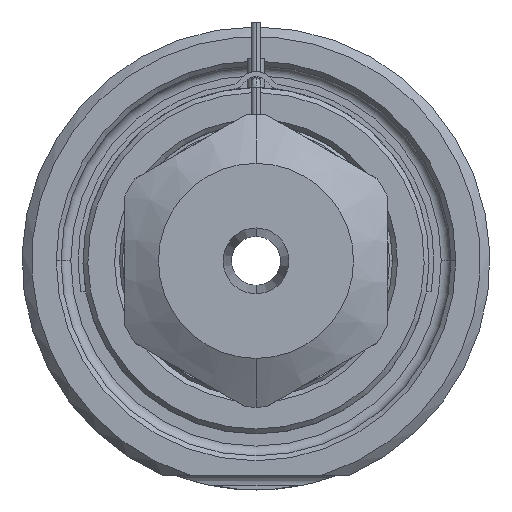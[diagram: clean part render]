
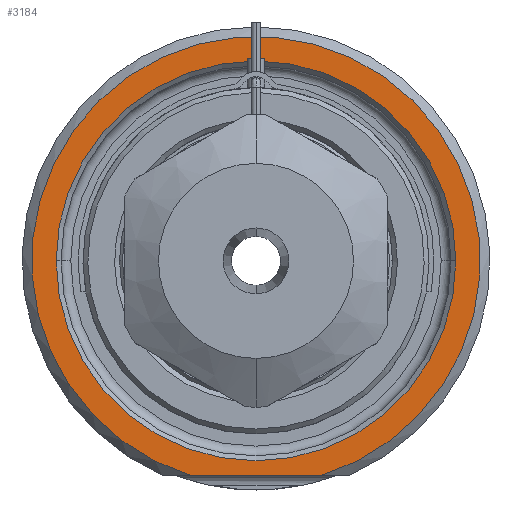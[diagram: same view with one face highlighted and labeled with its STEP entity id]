
A CAD part, front view. The second image highlights one B-rep face of the part: STEP entity #3184.
In plain terms, the highlighted planar face has unit normal (0, -1, 0).
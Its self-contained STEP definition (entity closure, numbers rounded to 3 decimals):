
#1=DIRECTION('',(1.,0.,0.));
#2=VECTOR('',#1,13.416);
#3=CARTESIAN_POINT('',(-6.708,0.,-22.));
#4=LINE('',#3,#2);
#5=CARTESIAN_POINT('',(0.,0.,0.));
#6=DIRECTION('',(0.,1.,0.));
#7=DIRECTION('',(-1.,0.,0.));
#8=AXIS2_PLACEMENT_3D('',#5,#6,#7);
#10=CARTESIAN_POINT('',(0.,0.,0.));
#11=DIRECTION('',(0.,1.,0.));
#12=DIRECTION('',(1.,0.,0.));
#13=AXIS2_PLACEMENT_3D('',#10,#11,#12);
#121=CARTESIAN_POINT('',(0.,0.,0.));
#122=DIRECTION('',(0.,-1.,0.));
#123=DIRECTION('',(0.292,0.,-0.957));
#124=AXIS2_PLACEMENT_3D('',#121,#122,#123);
#2633=CARTESIAN_POINT('',(-20.5,0.,0.));
#2634=CARTESIAN_POINT('',(20.5,0.,0.));
#2635=VERTEX_POINT('',#2633);
#2636=VERTEX_POINT('',#2634);
#2673=CARTESIAN_POINT('',(-6.708,0.,-22.));
#2674=CARTESIAN_POINT('',(6.708,0.,-22.));
#2675=VERTEX_POINT('',#2673);
#2676=VERTEX_POINT('',#2674);
#3167=CARTESIAN_POINT('',(0.,0.,0.));
#3168=DIRECTION('',(0.,-1.,0.));
#3169=DIRECTION('',(1.,0.,0.));
#3170=AXIS2_PLACEMENT_3D('',#3167,#3168,#3169);
#3171=PLANE('',#3170);
#3173=ORIENTED_EDGE('',*,*,#3172,.F.);
#3175=ORIENTED_EDGE('',*,*,#3174,.F.);
#3176=EDGE_LOOP('',(#3173,#3175));
#3177=FACE_OUTER_BOUND('',#3176,.F.);
#3179=ORIENTED_EDGE('',*,*,#3178,.F.);
#3181=ORIENTED_EDGE('',*,*,#3180,.F.);
#3182=EDGE_LOOP('',(#3179,#3181));
#3183=FACE_BOUND('',#3182,.F.);
#3184=ADVANCED_FACE('',(#3177,#3183),#3171,.T.);
#9=CIRCLE('',#8,20.5);
#14=CIRCLE('',#13,20.5);
#125=CIRCLE('',#124,23.);
#3172=EDGE_CURVE('',#2675,#2676,#4,.T.);
#3174=EDGE_CURVE('',#2676,#2675,#125,.T.);
#3178=EDGE_CURVE('',#2635,#2636,#9,.T.);
#3180=EDGE_CURVE('',#2636,#2635,#14,.T.);
